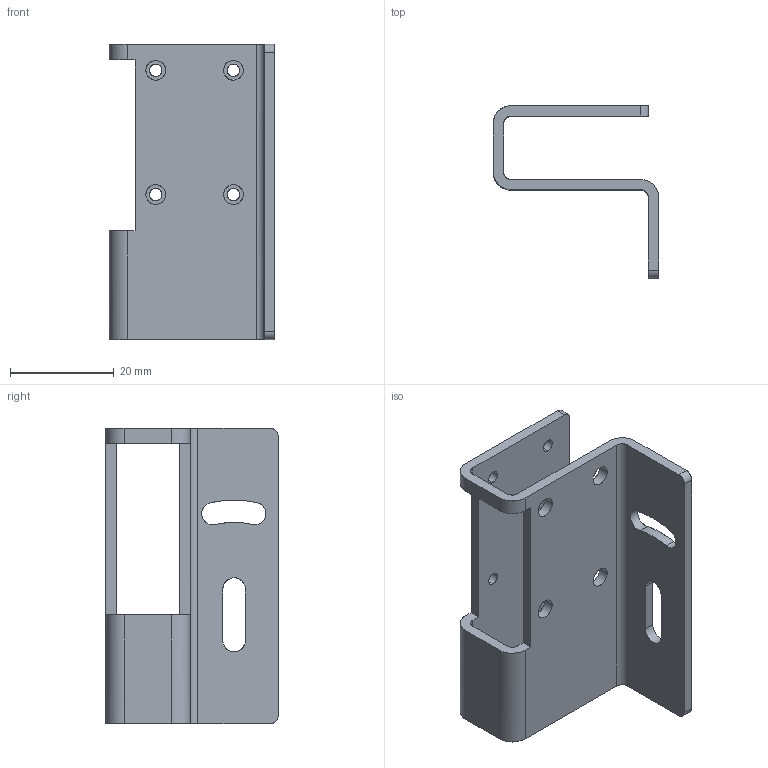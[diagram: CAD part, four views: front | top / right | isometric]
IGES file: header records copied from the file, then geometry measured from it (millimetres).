
Global section: file name: O:\Archiv\ARCHIV\153\3D-Model Kunde (DXF, IGS, SAT)\15300297 MSP F20-2.igs; native system: AutoCAD-16.0s (LMS Tech) (Microsoft Windows NT Version 5.1 (x86)); preprocessor: Autodesk IGES Translator Mechanical Desktop.R8.0.24.0 (Oct  8 2003) from Autodesk, Inc.; date: 20081028.093531; units: millimetre
Bounding box: 32 x 33.25 x 57 mm (x, y, z)
Surface area: 9433.4 mm2 (no closed solid volume)
Topology: 0 solids, 0 shells, 57 faces, 786 edges, 786 vertices
Faces by surface type: bspline 57
